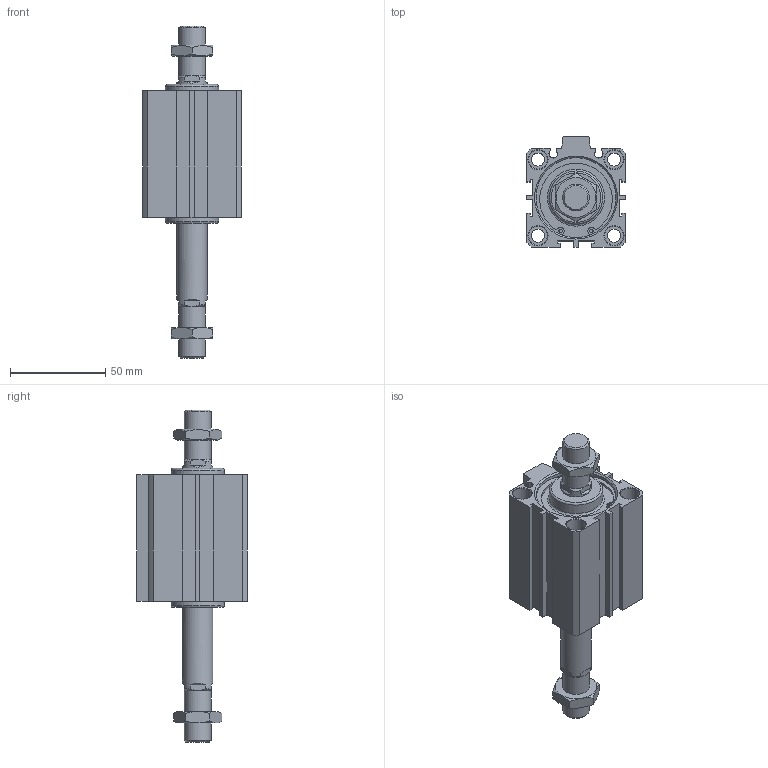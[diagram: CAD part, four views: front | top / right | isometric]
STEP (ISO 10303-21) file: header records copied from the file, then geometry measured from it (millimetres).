
FILE_DESCRIPTION((''),'2;1');
FILE_NAME('I:\3D電子目錄\氣缸\JDD\JDD-B\JDD40-B\JDD40x40-B.stp','2007-02-09T16:55:27',('662F206'),(''),'Autodesk Inventor 10','Autodesk Inventor 10','');
FILE_SCHEMA(('AUTOMOTIVE_DESIGN { 1 0 10303 214 1 1 1 1 }'));
Length unit declared in the file: millimetre
Products named in the file (3): JDD40-B; R 形環 42
Assembly tree (3 placements, depth 2):
  JDD40-B
    JDD40-B
    R 形環 42  x2
Bounding box: 52 x 58 x 174.5 mm (x, y, z)
Volume: 177627.9 mm3; surface area: 42283.6 mm2
Topology: 3 solids, 3 shells, 206 faces, 486 edges, 312 vertices
Faces by surface type: plane 114, cylinder 50, cone 38, bspline 2, torus 2
Full cylindrical faces by diameter (mm): 1.9 x4, 2.2 x2, 6.8 x4, 10 x8, 14 x4, 16 x2, 28 x2, 42 x4, 44.5 x2
Entity records: 5343 total; most frequent: CARTESIAN_POINT 1072, DIRECTION 880, ORIENTED_EDGE 792, EDGE_CURVE 396, AXIS2_PLACEMENT_3D 338, VERTEX_POINT 284, EDGE_LOOP 284, VECTOR 204
